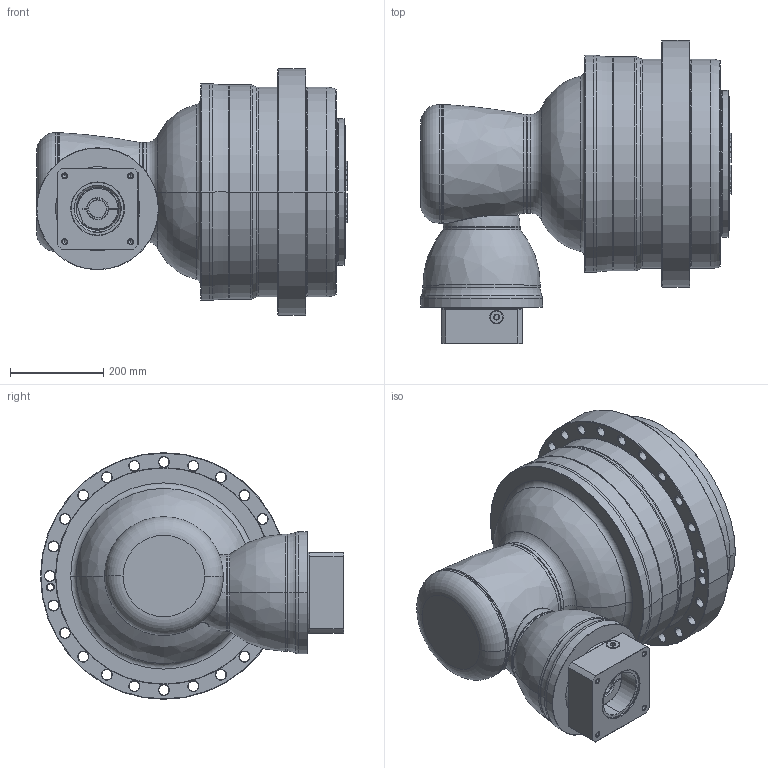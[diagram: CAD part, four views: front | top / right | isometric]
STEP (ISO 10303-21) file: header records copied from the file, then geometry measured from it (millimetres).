
FILE_DESCRIPTION((''),'2;1');
FILE_NAME('APCK450_3ST_38-P0409910201_ASM','2018-05-14T',('d01226'),(''),'PRO/ENGINEER BY PARAMETRIC TECHNOLOGY CORPORATION, 2008410','PRO/ENGINEER BY PARAMETRIC TECHNOLOGY CORPORATION, 2008410','');
FILE_SCHEMA(('CONFIG_CONTROL_DESIGN'));
Length unit declared in the file: millimetre
Products named in the file (13): P1008700002; P1315700001; P1007701001; P1318701101; P0409910201; P0503900012; P0912751001; 21711422019; P1821200001; P0276201003; P03572B0103; P1222200001; APCK450_3ST_38-P0409910201_ASM
Assembly tree (12 placements, depth 2):
  APCK450_3ST_38-P0409910201_ASM
    P1008700002
    P1315700001
    P1007701001
    P1318701101
    P0409910201
    P0503900012
    P0912751001
    21711422019
    P1821200001
    P0276201003
    P03572B0103
    P1222200001
Bounding box: 667.6 x 651 x 530 mm (x, y, z)
Volume: 88306565.7 mm3; surface area: 3079754.2 mm2
Topology: 13 solids, 25 shells, 837 faces, 2024 edges, 1243 vertices
Faces by surface type: cone 270, cylinder 228, plane 162, torus 149, bspline 26, sphere 2
Entity records: 33760 total; most frequent: CARTESIAN_POINT 13734, DIRECTION 4462, ORIENTED_EDGE 3970, EDGE_CURVE 2010, AXIS2_PLACEMENT_3D 1980, VERTEX_POINT 1243, CIRCLE 1132, EDGE_LOOP 949
